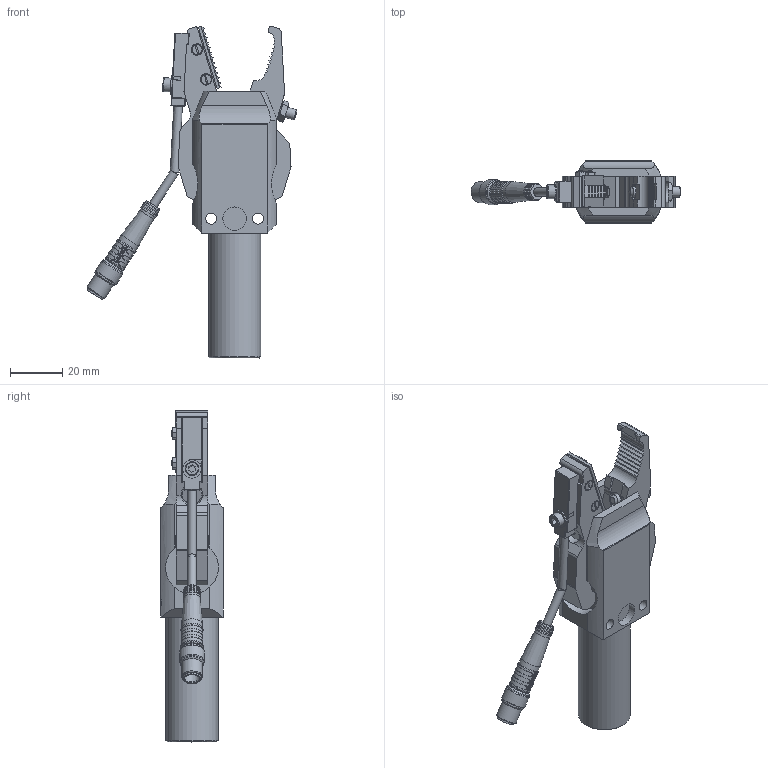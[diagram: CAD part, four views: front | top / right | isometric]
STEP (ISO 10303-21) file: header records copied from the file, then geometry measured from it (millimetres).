
FILE_DESCRIPTION(('STEP AP214'),'1');
FILE_NAME('CA.GTS.1004.145N.stp','2021-09-22T13:52:29',(' '),(' '),'Spatial InterOp 3D',' ',' ');
FILE_SCHEMA(('AUTOMOTIVE_DESIGN { 1 0 10303 214 1 1 1 1 }'));
Length unit declared in the file: millimetre
Products named in the file (20): CA.GTS.1004.145N; GTS.1004.01 per sito; GTS.04.15.N; V.TCE3x10; R.3; D.2; V.TSP2X14; GTS.1004.15; GRZ.20.SC.NPN; Q5-5; GTS.1004.15.1; PAP.0405504; DIM.11010; V.TSP4x14; GTS.04.14; V.STM4X20; D.4; R.4.SCH; GTS.1004.14
Assembly tree (24 placements, depth 4):
  CA.GTS.1004.145N
    GTS.1004.01 per sito
    GTS.04.15.N
      V.TCE3x10
      R.3
      D.2  x2
      V.TSP2X14  x2
      GTS.1004.15
      GRZ.20.SC.NPN
        Q5-5
        GRZ.20.SC.NPN
      GTS.1004.15.1
      PAP.0405504  x2
      DIM.11010
      V.TSP4x14
    GTS.04.14
      PAP.0405504  x2
      V.STM4X20
      D.4
      R.4.SCH
      GTS.1004.14
Bounding box: 80.65 x 24 x 127.52 mm (x, y, z)
Volume: 55656 mm3; surface area: 26277.6 mm2
Topology: 20 solids, 22 shells, 1163 faces, 3079 edges, 1995 vertices
Faces by surface type: plane 886, cylinder 179, cone 55, torus 28, bspline 13, extrusion 2
Full cylindrical faces by diameter (mm): 1.5 x1, 1.7 x1, 1.8 x2, 2.2 x4, 2.5 x1, 3 x3, 3.2 x3, 3.242 x1, 3.25 x1, 3.3 x4, 3.4 x1, 3.5 x1, 4 x6, 4.05 x2, 4.2 x2, 4.25 x1, 4.3 x1, 4.5 x2, 4.6 x1, 5.2 x1, 5.3 x1, 5.5 x6, 5.8 x3, 6 x2, 6.25 x1, 6.35 x6, 6.9 x2, 7 x2, 8.003 x1, 8.1 x1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
Entity records: 48435 total; most frequent: CARTESIAN_POINT 11169, ORIENTED_EDGE 5696, DIRECTION 5436, EDGE_CURVE 2848, VECTOR 2004, LINE 2002, VERTEX_POINT 1905, AXIS2_PLACEMENT_3D 1716
